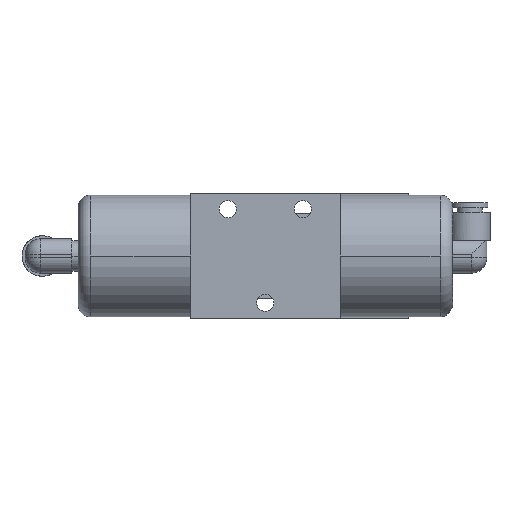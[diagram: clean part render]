
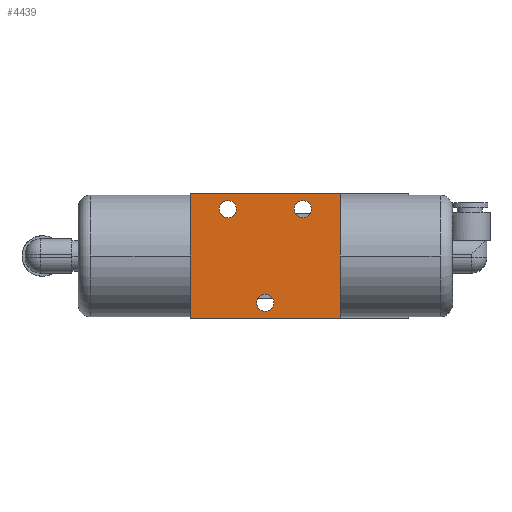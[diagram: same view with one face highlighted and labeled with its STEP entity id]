
A CAD part, front view. The second image highlights one B-rep face of the part: STEP entity #4439.
In plain terms, the highlighted planar face has unit normal (0, -1, 0).
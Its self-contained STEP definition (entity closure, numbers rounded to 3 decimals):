
#714=CARTESIAN_POINT('',(-12.0,-20.0,17.75));
#715=VERTEX_POINT('',#714);
#731=CARTESIAN_POINT('',(-12.0,-20.0,12.25));
#732=VERTEX_POINT('',#731);
#739=CARTESIAN_POINT('',(-12.0,-20.0,15.0));
#740=DIRECTION('',(0.0,1.0,0.0));
#741=DIRECTION('',(0.0,0.0,1.0));
#742=AXIS2_PLACEMENT_3D('',#739,#740,#741);
#743=CIRCLE('',#742,2.75);
#744=EDGE_CURVE('',#715,#732,#743,.T.);
#756=CARTESIAN_POINT('',(12.0,-20.0,17.75));
#757=VERTEX_POINT('',#756);
#773=CARTESIAN_POINT('',(12.0,-20.0,12.25));
#774=VERTEX_POINT('',#773);
#781=CARTESIAN_POINT('',(12.0,-20.0,15.0));
#782=DIRECTION('',(0.0,1.0,0.0));
#783=DIRECTION('',(0.0,0.0,1.0));
#784=AXIS2_PLACEMENT_3D('',#781,#782,#783);
#785=CIRCLE('',#784,2.75);
#786=EDGE_CURVE('',#757,#774,#785,.T.);
#798=CARTESIAN_POINT('',(0.0,-20.0,-12.25));
#799=VERTEX_POINT('',#798);
#815=CARTESIAN_POINT('',(0.,-20.0,-17.75));
#816=VERTEX_POINT('',#815);
#823=CARTESIAN_POINT('',(0.0,-20.0,-15.0));
#824=DIRECTION('',(0.0,1.0,0.0));
#825=DIRECTION('',(0.0,0.0,1.0));
#826=AXIS2_PLACEMENT_3D('',#823,#824,#825);
#827=CIRCLE('',#826,2.75);
#828=EDGE_CURVE('',#799,#816,#827,.T.);
#3637=CARTESIAN_POINT('',(0.0,-20.0,-15.0));
#3638=DIRECTION('',(0.0,1.0,0.0));
#3639=DIRECTION('',(0.0,0.0,1.0));
#3640=AXIS2_PLACEMENT_3D('',#3637,#3638,#3639);
#3641=CIRCLE('',#3640,2.75);
#3642=EDGE_CURVE('',#816,#799,#3641,.T.);
#3661=CARTESIAN_POINT('',(12.0,-20.0,15.0));
#3662=DIRECTION('',(0.0,1.0,0.0));
#3663=DIRECTION('',(0.0,0.0,1.0));
#3664=AXIS2_PLACEMENT_3D('',#3661,#3662,#3663);
#3665=CIRCLE('',#3664,2.75);
#3666=EDGE_CURVE('',#774,#757,#3665,.T.);
#3685=CARTESIAN_POINT('',(-12.0,-20.0,15.0));
#3686=DIRECTION('',(0.0,1.0,0.0));
#3687=DIRECTION('',(0.0,0.0,1.0));
#3688=AXIS2_PLACEMENT_3D('',#3685,#3686,#3687);
#3689=CIRCLE('',#3688,2.75);
#3690=EDGE_CURVE('',#732,#715,#3689,.T.);
#4388=CARTESIAN_POINT('',(-24.0,-20.0,0.0));
#4389=DIRECTION('',(0.0,-1.0,0.0));
#4390=DIRECTION('',(0.0,0.0,-1.0));
#4391=AXIS2_PLACEMENT_3D('',#4388,#4389,#4390);
#4392=PLANE('',#4391);
#4393=CARTESIAN_POINT('',(-24.0,-20.0,-20.0));
#4394=VERTEX_POINT('',#4393);
#4395=CARTESIAN_POINT('',(24.0,-20.0,-20.0));
#4396=VERTEX_POINT('',#4395);
#4397=CARTESIAN_POINT('',(-24.0,-20.0,-20.0));
#4398=DIRECTION('',(1.0,0.0,0.0));
#4399=VECTOR('',#4398,48.0);
#4400=LINE('',#4397,#4399);
#4401=EDGE_CURVE('',#4394,#4396,#4400,.T.);
#4402=ORIENTED_EDGE('',*,*,#4401,.T.);
#4403=CARTESIAN_POINT('',(24.0,-20.0,20.0));
#4404=VERTEX_POINT('',#4403);
#4405=CARTESIAN_POINT('',(24.0,-20.0,-20.0));
#4406=DIRECTION('',(0.0,0.0,1.0));
#4407=VECTOR('',#4406,40.0);
#4408=LINE('',#4405,#4407);
#4409=EDGE_CURVE('',#4396,#4404,#4408,.T.);
#4410=ORIENTED_EDGE('',*,*,#4409,.T.);
#4411=CARTESIAN_POINT('',(-24.0,-20.0,20.0));
#4412=VERTEX_POINT('',#4411);
#4413=CARTESIAN_POINT('',(24.0,-20.0,20.0));
#4414=DIRECTION('',(-1.0,0.0,0.0));
#4415=VECTOR('',#4414,48.0);
#4416=LINE('',#4413,#4415);
#4417=EDGE_CURVE('',#4404,#4412,#4416,.T.);
#4418=ORIENTED_EDGE('',*,*,#4417,.T.);
#4419=CARTESIAN_POINT('',(-24.0,-20.0,-20.0));
#4420=DIRECTION('',(0.0,0.0,1.0));
#4421=VECTOR('',#4420,40.0);
#4422=LINE('',#4419,#4421);
#4423=EDGE_CURVE('',#4394,#4412,#4422,.T.);
#4424=ORIENTED_EDGE('',*,*,#4423,.F.);
#4425=EDGE_LOOP('',(#4402,#4410,#4418,#4424));
#4426=FACE_OUTER_BOUND('',#4425,.T.);
#4427=ORIENTED_EDGE('',*,*,#3642,.T.);
#4428=ORIENTED_EDGE('',*,*,#828,.T.);
#4429=EDGE_LOOP('',(#4427,#4428));
#4430=FACE_BOUND('',#4429,.T.);
#4431=ORIENTED_EDGE('',*,*,#3666,.T.);
#4432=ORIENTED_EDGE('',*,*,#786,.T.);
#4433=EDGE_LOOP('',(#4431,#4432));
#4434=FACE_BOUND('',#4433,.T.);
#4435=ORIENTED_EDGE('',*,*,#3690,.T.);
#4436=ORIENTED_EDGE('',*,*,#744,.T.);
#4437=EDGE_LOOP('',(#4435,#4436));
#4438=FACE_BOUND('',#4437,.T.);
#4439=ADVANCED_FACE('',(#4426,#4430,#4434,#4438),#4392,.T.);
